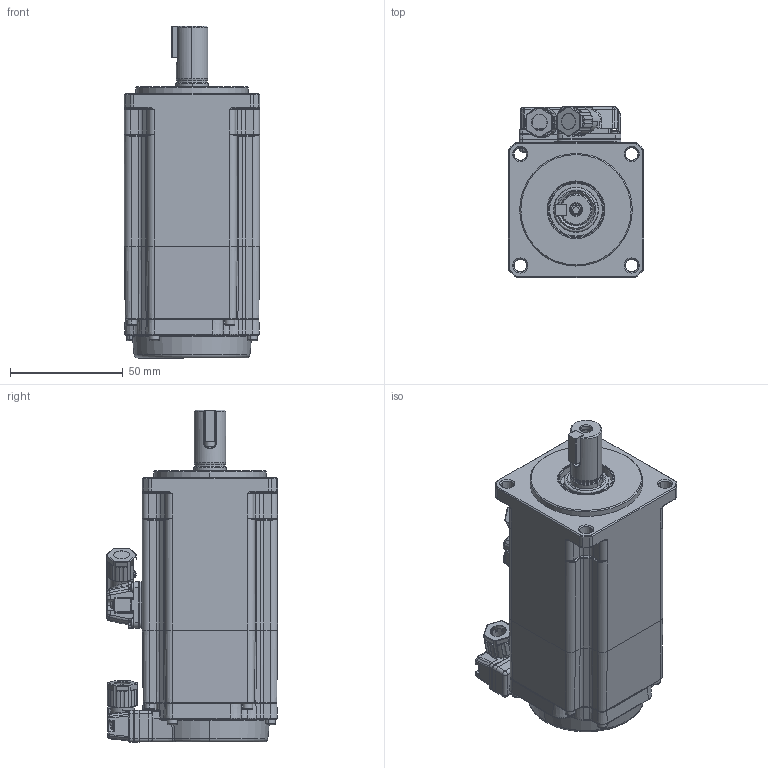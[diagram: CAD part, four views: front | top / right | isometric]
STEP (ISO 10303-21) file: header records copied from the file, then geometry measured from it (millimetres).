
FILE_DESCRIPTION (( 'STEP AP214' ), '1' );
FILE_NAME ('60x60-400W伺服电机带制动器_通用外形图_A0.STEP', '2023-09-15T01:56:07', ( '' ), ( '' ), 'SwSTEP 2.0', 'SolidWorks 2020', '' );
FILE_SCHEMA (( 'AUTOMOTIVE_DESIGN' ));
Length unit declared in the file: millimetre
Products named in the file (1): 60x60-400W伺服电机带制动器_通用外形图_A0
Bounding box: 60 x 75.95 x 147.4 mm (x, y, z)
Surface area: 42225.9 mm2 (no closed solid volume)
Topology: 0 solids, 33 shells, 1374 faces, 4826 edges, 3290 vertices
Faces by surface type: plane 460, cylinder 434, torus 213, bspline 129, cone 109, sphere 29
Entity records: 73544 total; most frequent: CARTESIAN_POINT 19396, DIRECTION 7810, ORIENTED_EDGE 7699, EDGE_CURVE 4787, VERTEX_POINT 3290, AXIS2_PLACEMENT_3D 2821, LINE 2168, VECTOR 2168
